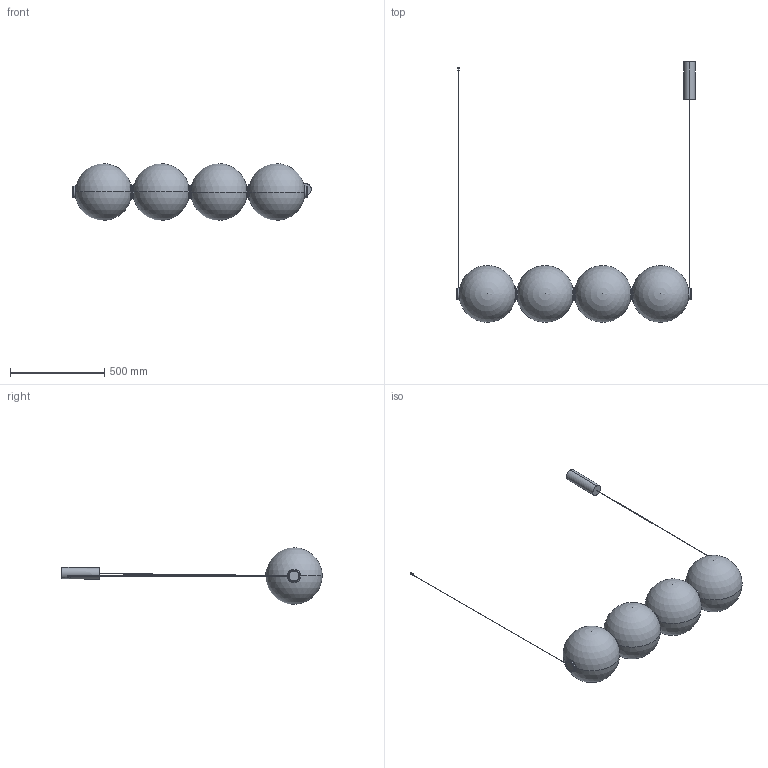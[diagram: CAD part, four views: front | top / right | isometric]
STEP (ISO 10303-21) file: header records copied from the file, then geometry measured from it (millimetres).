
FILE_DESCRIPTION (( 'STEP AP214' ), '1' );
FILE_NAME ('TOULON_C1365-4.STEP', '2026-06-29T11:06:53', ( '' ), ( '' ), 'SwSTEP 2.0', 'SolidWorks 2023', '' );
FILE_SCHEMA (( 'AUTOMOTIVE_DESIGN' ));
Length unit declared in the file: millimetre
Products named in the file (5): floron colgante 4; union; tubo ison; TOULON_C1365-4; bola ulon
Assembly tree (9 placements, depth 2):
  TOULON_C1365-4
    tubo ison
    bola ulon  x4
    union  x3
    floron colgante 4
Bounding box: 1261.97 x 1379.42 x 300 mm (x, y, z)
Volume: 60683560.7 mm3; surface area: 1591913.4 mm2
Topology: 21 solids, 21 shells, 304 faces, 784 edges, 514 vertices
Faces by surface type: cylinder 153, plane 81, sphere 32, bspline 18, torus 12, cone 8
Entity records: 7827 total; most frequent: CARTESIAN_POINT 3102, DIRECTION 983, ORIENTED_EDGE 920, EDGE_CURVE 460, AXIS2_PLACEMENT_3D 381, VERTEX_POINT 304, LINE 221, VECTOR 221
